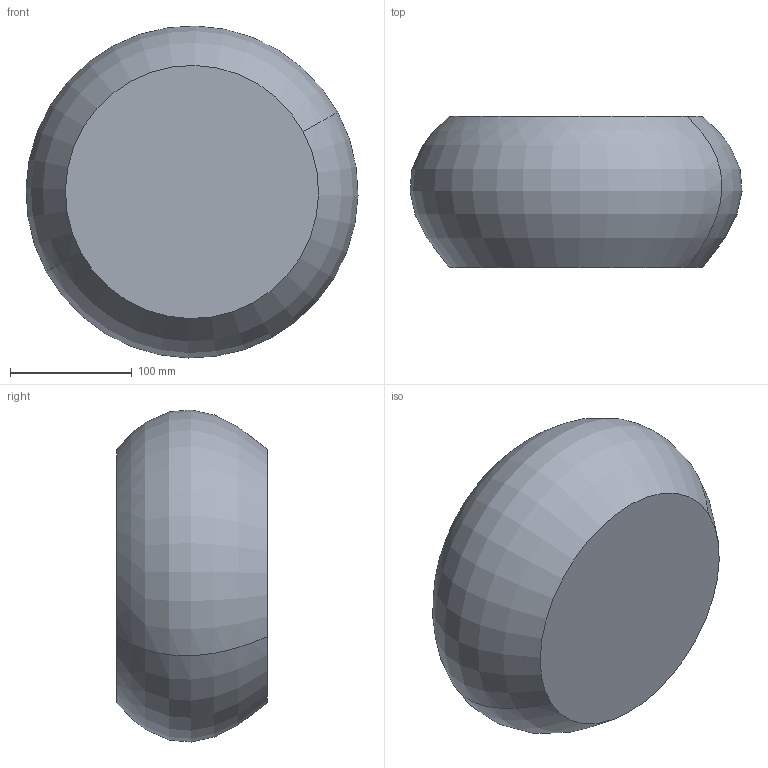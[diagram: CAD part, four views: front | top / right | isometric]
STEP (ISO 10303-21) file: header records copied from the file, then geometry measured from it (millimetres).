
FILE_DESCRIPTION(('CATIA V5 STEP Exchange'),'2;1');
FILE_NAME('C:\_Andres\UNIVERSIDAD\IQS\ASIGNATURAS\DAO\EXF\EXF-15161c\1original\Mas_Oliver_Ej10-decora_v14.stp','2016-03-04T22:24:13+00:00',('none'),('none'),'CATIA Version 5 Release 20 SP 1 (IN-10)','CATIA V5 STEP AP203','none');
FILE_SCHEMA(('CONFIG_CONTROL_DESIGN'));
Length unit declared in the file: millimetre
Products named in the file (1): Mas_Oliver_Ej10-decora_v14
Bounding box: 272.78 x 124 x 272.78 mm (x, y, z)
Volume: 6194161.2 mm3; surface area: 180813.3 mm2
Topology: 1 solids, 1 shells, 4 faces, 6 edges, 4 vertices
Faces by surface type: revolution 2, plane 2
Entity records: 166 total; most frequent: CARTESIAN_POINT 50, DIRECTION 12, ORIENTED_EDGE 12, AXIS2_PLACEMENT_3D 8, EDGE_CURVE 6, ADVANCED_FACE 4, B_SPLINE_CURVE_WITH_KNOTS 4, CC_DESIGN_PERSON_AND_ORGANIZATION_ASSIGNMENT 4
